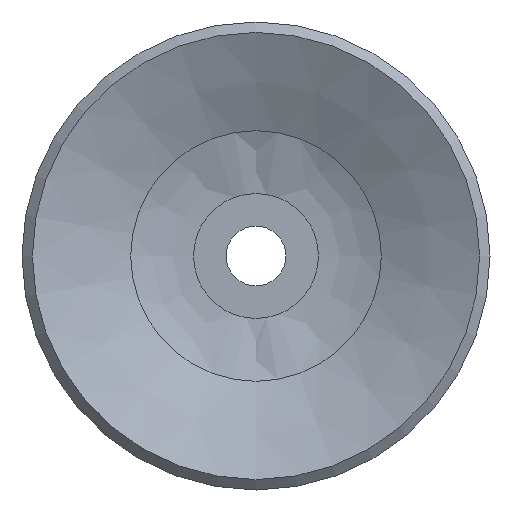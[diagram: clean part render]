
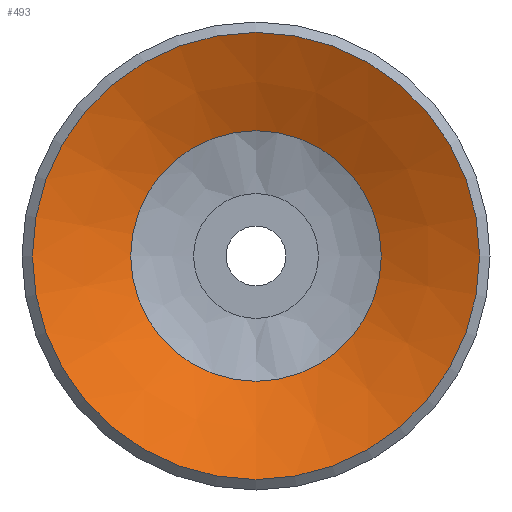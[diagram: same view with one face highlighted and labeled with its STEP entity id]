
A CAD part, front view. The second image highlights one B-rep face of the part: STEP entity #493.
In plain terms, the highlighted conical face has half-angle 65.056 degrees and reference radius 3.2 mm.
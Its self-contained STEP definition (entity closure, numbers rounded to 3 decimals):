
#493=ADVANCED_FACE('',(#735,#736),#737,.F.);
#735=FACE_BOUND('',#1018,.T.);
#736=FACE_OUTER_BOUND('',#1019,.T.);
#737=CONICAL_SURFACE('',#1020,3.2,1.135);
#1018=EDGE_LOOP('',(#1661));
#1019=EDGE_LOOP('',(#1662));
#1020=AXIS2_PLACEMENT_3D('',#1663,#1664,#1665);
#1661=ORIENTED_EDGE('',*,*,#1854,.T.);
#1662=ORIENTED_EDGE('',*,*,#1855,.T.);
#1663=CARTESIAN_POINT('',(0.0,7.896,0.0));
#1664=DIRECTION('',(-0.0,-1.0,0.));
#1665=DIRECTION('',(0.0,0.,-1.0));
#1854=EDGE_CURVE('',#2152,#2152,#2153,.T.);
#1855=EDGE_CURVE('',#2154,#2154,#2155,.T.);
#2152=VERTEX_POINT('',#2800);
#2153=CIRCLE('',#2801,4.203);
#2154=VERTEX_POINT('',#2802);
#2155=CIRCLE('',#2803,7.5);
#2800=CARTESIAN_POINT('',(0.0,7.43,-4.203));
#2801=AXIS2_PLACEMENT_3D('',#3067,#3068,#3069);
#2802=CARTESIAN_POINT('',(0.0,5.896,-7.5));
#2803=AXIS2_PLACEMENT_3D('',#3070,#3071,#3072);
#3067=CARTESIAN_POINT('',(0.0,7.43,0.0));
#3068=DIRECTION('',(0.0,1.0,0.));
#3069=DIRECTION('',(0.0,0.,-1.0));
#3070=CARTESIAN_POINT('',(0.0,5.896,0.0));
#3071=DIRECTION('',(0.0,-1.0,0.));
#3072=DIRECTION('',(0.0,0.,-1.0));
